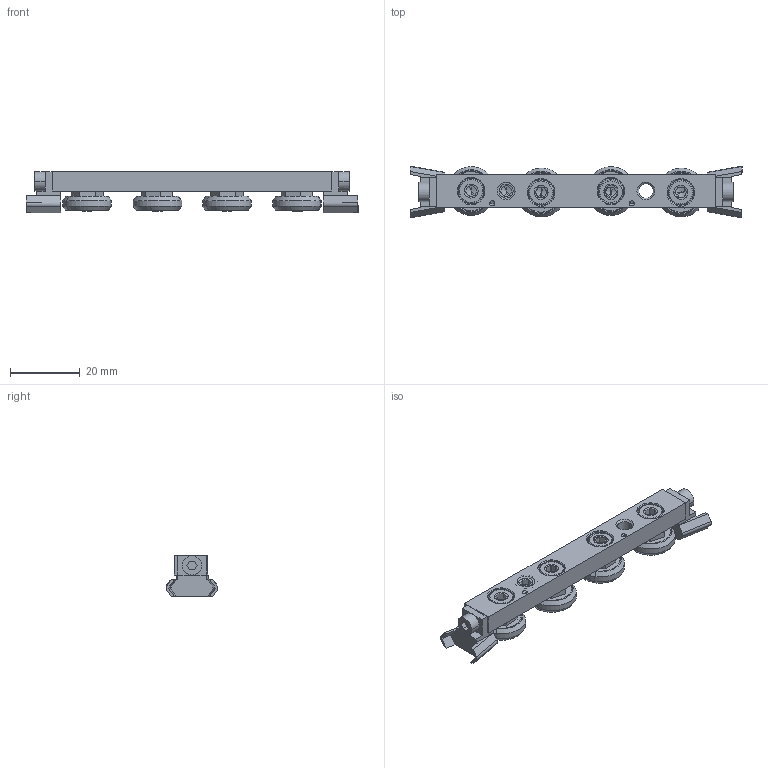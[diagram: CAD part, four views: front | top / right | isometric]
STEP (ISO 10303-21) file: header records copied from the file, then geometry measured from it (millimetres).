
FILE_DESCRIPTION (( 'STEP AP203' ), '1' );
FILE_NAME ('L1918.CSW18-80-2ZTB.step', '2019-06-29T22:02:51', ( '' ), ( '' ), 'SwSTEP 2.0', 'SolidWorks 2017', '' );
FILE_SCHEMA (( 'CONFIG_CONTROL_DESIGN' ));
Length unit declared in the file: millimetre
Products named in the file (6): Part8; Part1_L1918.CSW18-80-2ZTB; Part6; L1918.CSW18-80-2ZTB; Part3; Part2
Assembly tree (14 placements, depth 2):
  L1918.CSW18-80-2ZTB
    Part1_L1918.CSW18-80-2ZTB
    Part8  x7
    Part2  x2
    Part3  x2
    Part6  x2
Bounding box: 95 x 14.8 x 11.95 mm (x, y, z)
Volume: 7753.8 mm3; surface area: 7620.7 mm2
Topology: 14 solids, 14 shells, 434 faces, 1010 edges, 621 vertices
Faces by surface type: plane 226, cone 112, cylinder 74, torus 22
Entity records: 6403 total; most frequent: CARTESIAN_POINT 1032, DIRECTION 1008, ORIENTED_EDGE 872, EDGE_CURVE 436, AXIS2_PLACEMENT_3D 380, VERTEX_POINT 279, LINE 248, VECTOR 248
